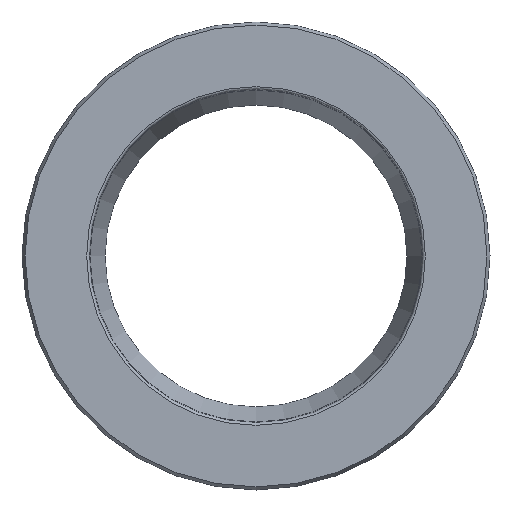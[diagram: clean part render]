
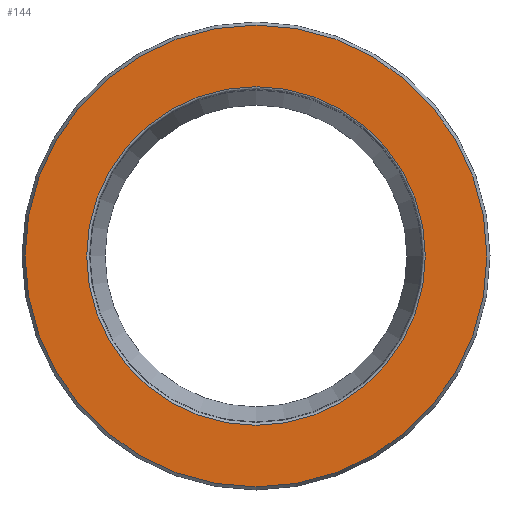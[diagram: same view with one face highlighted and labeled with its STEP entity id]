
A CAD part, left-side view. The second image highlights one B-rep face of the part: STEP entity #144.
In plain terms, the highlighted planar face has unit normal (-1, 0, 0).
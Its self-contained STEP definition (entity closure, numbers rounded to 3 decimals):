
#144 = ADVANCED_FACE( '', ( #284, #285 ), #286, .T. );
#284 = FACE_BOUND( '', #456, .T. );
#285 = FACE_OUTER_BOUND( '', #457, .T. );
#286 = PLANE( '', #458 );
#456 = EDGE_LOOP( '', ( #635 ) );
#457 = EDGE_LOOP( '', ( #636 ) );
#458 = AXIS2_PLACEMENT_3D( '', #637, #638, #639 );
#635 = ORIENTED_EDGE( '', *, *, #835, .T. );
#636 = ORIENTED_EDGE( '', *, *, #839, .F. );
#637 = CARTESIAN_POINT( '', ( 0., 30.593, 0. ) );
#638 = DIRECTION( '', ( -1., 0., 0. ) );
#639 = DIRECTION( '', ( 0., 0., 1. ) );
#835 = EDGE_CURVE( '', #931, #931, #932, .T. );
#839 = EDGE_CURVE( '', #937, #937, #938, .T. );
#931 = VERTEX_POINT( '', #1046 );
#932 = CIRCLE( '', #1047, 22.435 );
#937 = VERTEX_POINT( '', #1052 );
#938 = CIRCLE( '', #1053, 30.593 );
#1046 = CARTESIAN_POINT( '', ( 0., 0., -22.435 ) );
#1047 = AXIS2_PLACEMENT_3D( '', #1168, #1169, #1170 );
#1052 = CARTESIAN_POINT( '', ( 0., 0., -30.593 ) );
#1053 = AXIS2_PLACEMENT_3D( '', #1174, #1175, #1176 );
#1168 = CARTESIAN_POINT( '', ( 0., 0., 0. ) );
#1169 = DIRECTION( '', ( 1., 0., 0. ) );
#1170 = DIRECTION( '', ( 0., 0., -1. ) );
#1174 = CARTESIAN_POINT( '', ( 0., 0., 0. ) );
#1175 = DIRECTION( '', ( 1., 0., 0. ) );
#1176 = DIRECTION( '', ( 0., 0., -1. ) );
